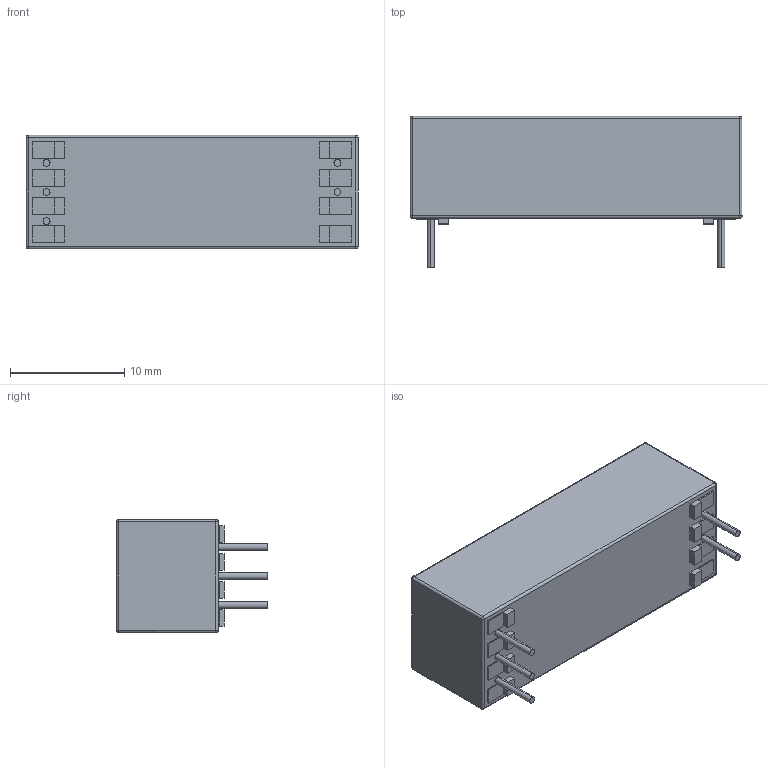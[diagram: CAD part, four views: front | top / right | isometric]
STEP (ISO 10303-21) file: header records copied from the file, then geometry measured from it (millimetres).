
FILE_DESCRIPTION (( 'STEP AP203' ), '1' );
FILE_NAME ('85-1-C.STEP', '2010-06-29T15:26:04', ( ' ' ), ( '' ), 'SwSTEP 2.0', 'SolidWorks 2009', '' );
FILE_SCHEMA (( 'CONFIG_CONTROL_DESIGN' ));
Products named in the file (1): 85-1-C
Bounding box: 29 x 13.2 x 9.9 mm (x, y, z)
Volume: 2563 mm3; surface area: 1311.7 mm2
Topology: 1 solids, 1 shells, 730 faces, 1924 edges, 1266 vertices
Faces by surface type: plane 453, bspline 241, cylinder 26, sphere 10
Entity records: 35121 total; most frequent: CARTESIAN_POINT 18642, ORIENTED_EDGE 3832, DIRECTION 2468, EDGE_CURVE 1916, LINE 1380, VECTOR 1380, VERTEX_POINT 1266, EDGE_LOOP 808
